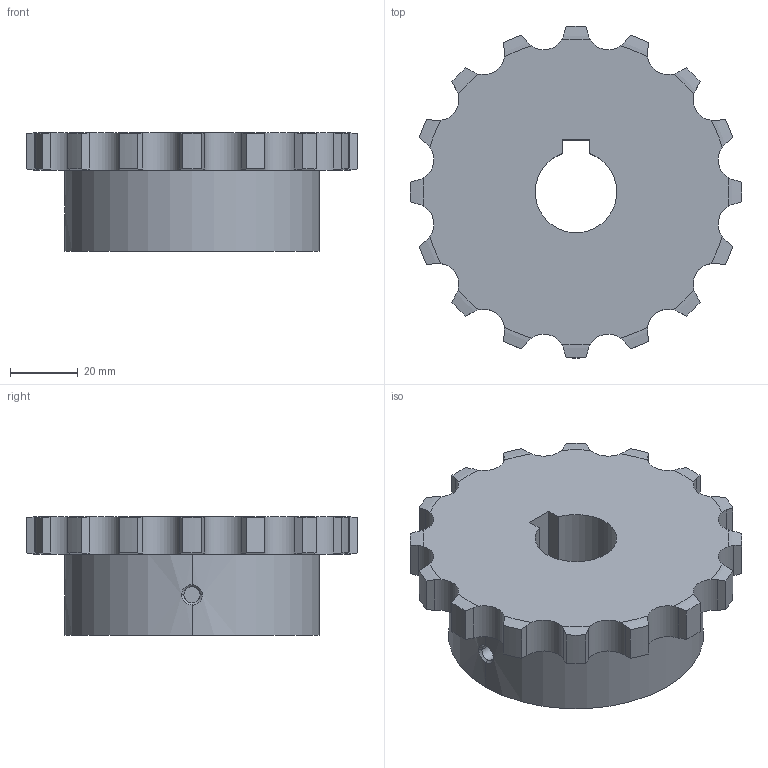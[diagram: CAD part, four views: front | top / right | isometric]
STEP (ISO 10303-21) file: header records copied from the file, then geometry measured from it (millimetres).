
FILE_DESCRIPTION((''),'2;1');
FILE_NAME('510-401-2416_PRT','2021-02-13T',('Brieden'),('Brieden'),'PRO/ENGINEER BY PARAMETRIC TECHNOLOGY CORPORATION, 2010160','PRO/ENGINEER BY PARAMETRIC TECHNOLOGY CORPORATION, 2010160','');
FILE_SCHEMA(('AUTOMOTIVE_DESIGN { 1 0 10303 214 1 1 1 1 }'));
Length unit declared in the file: millimetre
Products named in the file (1): 510-401-2416_PRT
Bounding box: 97.63 x 97.63 x 35 mm (x, y, z)
Volume: 161055.6 mm3; surface area: 25357.6 mm2
Topology: 1 solids, 1 shells, 117 faces, 333 edges, 220 vertices
Faces by surface type: cylinder 71, torus 32, plane 8, bspline 6
Entity records: 5692 total; most frequent: CARTESIAN_POINT 1765, ORIENTED_EDGE 666, DIRECTION 521, PRESENTATION_STYLE_ASSIGNMENT 334, STYLED_ITEM 334, CURVE_STYLE 333, EDGE_CURVE 333, VERTEX_POINT 220
